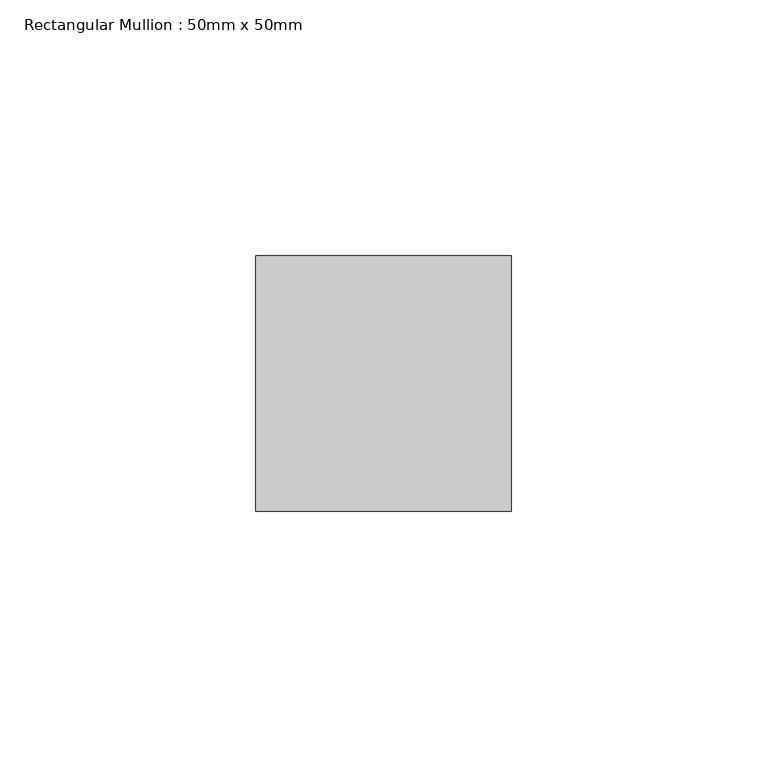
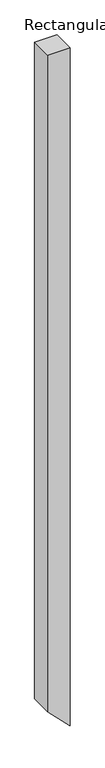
"""IFC4 building model written with IfcOpenShell, lengths in millimetres: member geometry, Rectangular Mullion : 50mm x 50mm."""

from ifc_helpers import new_model, si_unit, frame, origin, place, context, project, spatial, polyline, outline, extrude, source, transform, mapped, element, save


def rectangular_mullion_50mm_x_50mm_dd3dfec3(model_context):
    return source(origin(), model_context, "Body", "SweptSolid", [
        extrude(outline(polyline([(0.0, 0.0), (0.0, -50.0), (-1552.7885378, -50.0), (-1603.4926256, 0.0), (0.0, 0.0)])), frame((0.0, -25.0, 0.0), z_axis=(0.0, 1.0, 0.0), x_axis=(0.0, 0.0, 1.0)), (0.0, 0.0, 1.0), 50.0),
    ])


if __name__ == "__main__":
    model = new_model("IFC4")
    model_context = context("Model", 3, world=origin())
    ifc_project = project(units=[si_unit("LENGTHUNIT", "METRE", prefix="MILLI")], contexts=[model_context])
    site = spatial("IfcSite", under=ifc_project)
    building = spatial("IfcBuilding", under=site)
    placement = place(None, origin())
    rectangular_mullion_50mm_x_50mm_shape = rectangular_mullion_50mm_x_50mm_dd3dfec3(model_context)
    element("IfcMember", 1, ObjectType="Rectangular Mullion : 50mm x 50mm", at=placement, inside=building, context=model_context, shape_type="MappedRepresentation", body=[
        mapped(rectangular_mullion_50mm_x_50mm_shape, transform((0.0, 0.0, 0.0), x_axis=(1.0, 0.0, 0.0), y_axis=(0.0, 1.0, 0.0), z_axis=(0.0, 0.0, 1.0))),
    ])
    save(model, "model.ifc")
